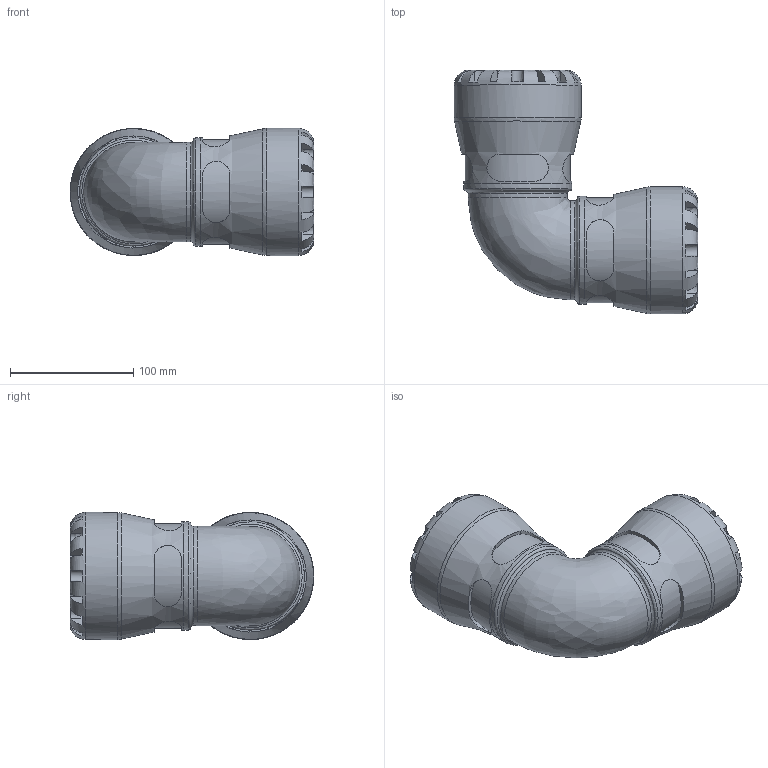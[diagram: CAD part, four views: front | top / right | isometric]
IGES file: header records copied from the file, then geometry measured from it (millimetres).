
Global section: file name: 150500063; native system: Autodesk Inventor 2019; preprocessor: unknown; author: KIM; date: 20231017.193519; units: millimetre
Bounding box: 197.5 x 197.5 x 103 mm (x, y, z)
Volume: 1016953.3 mm3; surface area: 148357.8 mm2
Topology: 1 solids, 1 shells, 196 faces, 521 edges, 335 vertices
Faces by surface type: bspline 196
